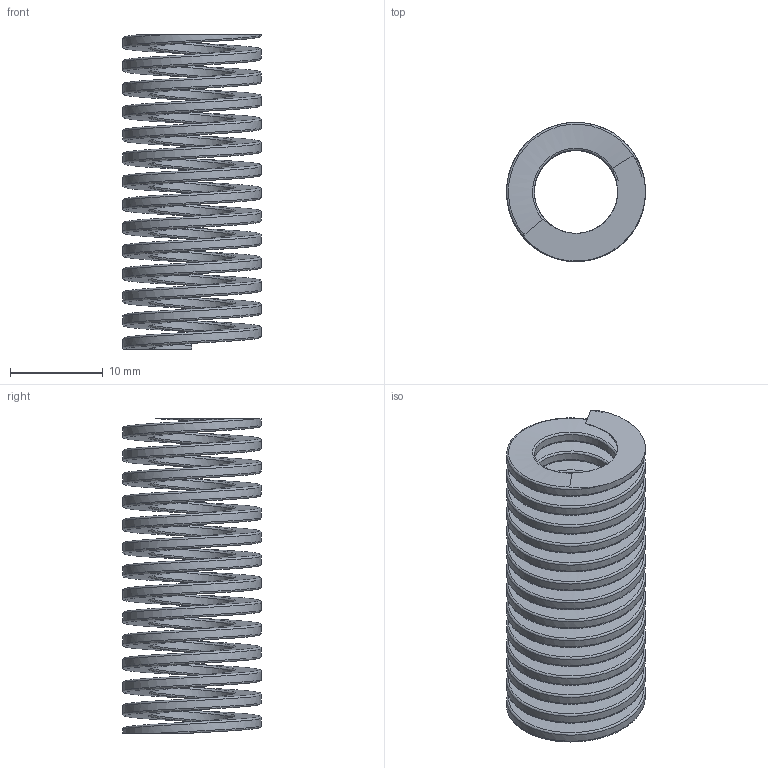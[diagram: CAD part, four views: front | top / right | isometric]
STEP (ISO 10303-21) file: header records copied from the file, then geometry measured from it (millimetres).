
FILE_DESCRIPTION(('CATIA V5 STEP Exchange'),'2;1');
FILE_NAME('E:\WAT\Sprezarka\121_00_00_Tlocznik1\Tlocznik1_stp\241.14.16.044_skok10.stp','2022-09-24T10:16:34+00:00',('none'),('none'),'CATIA Version 5 Release 20 SP 4 (IN-10)','CATIA V5 STEP AP214','none');
FILE_SCHEMA(('AUTOMOTIVE_DESIGN { 1 0 10303 214 1 1 1 1 }'));
Length unit declared in the file: millimetre
Products named in the file (1): 241.14.16.044_skok10
Bounding box: 15 x 15 x 34 mm (x, y, z)
Volume: 1822.2 mm3; surface area: 4187.8 mm2
Topology: 1 solids, 1 shells, 11 faces, 27 edges, 18 vertices
Faces by surface type: bspline 8, plane 3
Entity records: 9016 total; most frequent: CARTESIAN_POINT 8802, ORIENTED_EDGE 54, EDGE_CURVE 27, VERTEX_POINT 18, B_SPLINE_CURVE_WITH_KNOTS 16, DIRECTION 13, ADVANCED_FACE 11, EDGE_LOOP 11
